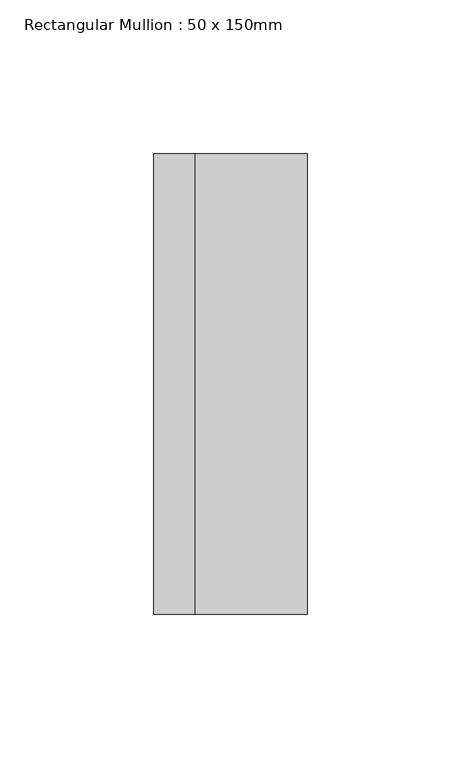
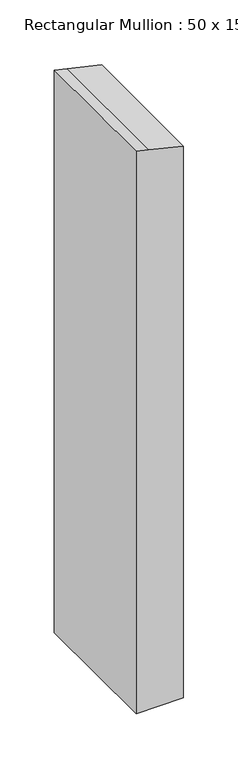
"""IFC4 building model written with IfcOpenShell, lengths in millimetres: member geometry, Rectangular Mullion : 50 x 150mm."""

from ifc_helpers import new_model, si_unit, frame, origin, place, context, project, spatial, polyline, outline, extrude, source, transform, mapped, element, save


def rectangular_mullion_50_x_150mm_93e98574(model_context):
    return source(origin(), model_context, "Body", "SweptSolid", [
        extrude(outline(polyline([(-57.3562132, 25.0), (-48.6620226, -11.4899036), (-45.5010378, -25.0), (-676.5025871, -25.0), (-676.5025871, 25.0), (-57.3562132, 25.0)])), frame((0.0, -75.0, 0.0), z_axis=(0.0, 1.0, 0.0), x_axis=(0.0, 0.0, 1.0)), (0.0, 0.0, 1.0), 150.0),
    ])


if __name__ == "__main__":
    model = new_model("IFC4")
    model_context = context("Model", 3, world=origin())
    ifc_project = project(units=[si_unit("LENGTHUNIT", "METRE", prefix="MILLI")], contexts=[model_context])
    site = spatial("IfcSite", under=ifc_project)
    building = spatial("IfcBuilding", under=site)
    placement = place(None, origin())
    rectangular_mullion_50_x_150mm_shape = rectangular_mullion_50_x_150mm_93e98574(model_context)
    element("IfcMember", 1, ObjectType="Rectangular Mullion : 50 x 150mm", at=placement, inside=building, context=model_context, shape_type="MappedRepresentation", body=[
        mapped(rectangular_mullion_50_x_150mm_shape, transform((0.0, 0.0, 0.0), x_axis=(1.0, 0.0, 0.0), y_axis=(0.0, 1.0, 0.0), z_axis=(0.0, 0.0, 1.0))),
    ])
    save(model, "model.ifc")
